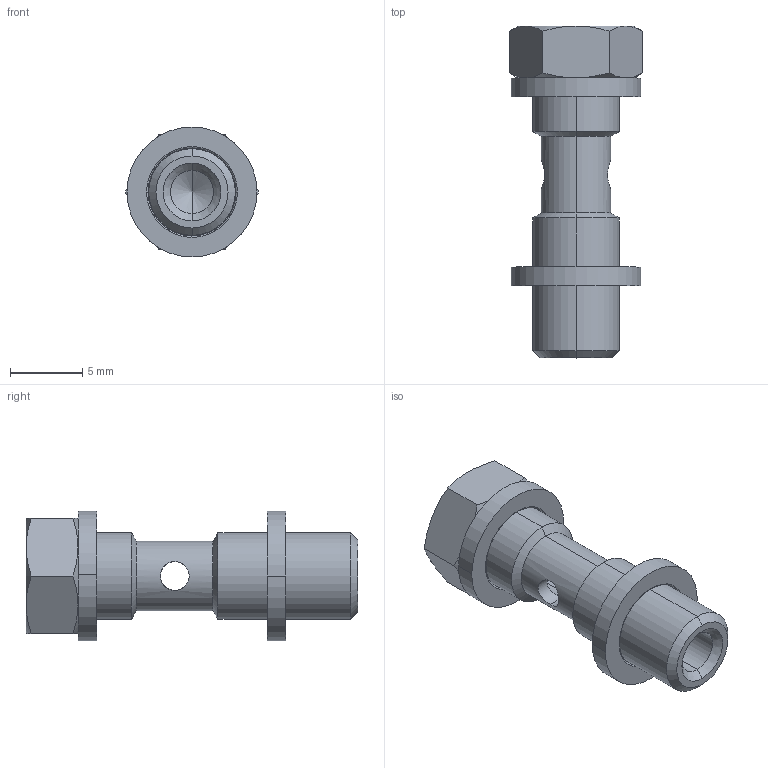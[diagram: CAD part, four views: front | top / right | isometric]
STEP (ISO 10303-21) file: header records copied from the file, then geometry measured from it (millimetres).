
FILE_DESCRIPTION (( 'STEP AP214' ), '1' );
FILE_NAME ('5141000012.step', '2012-10-01T17:05:37', ( '' ), ( '' ), 'SwSTEP 2.0', 'SolidWorks 2012', '' );
FILE_SCHEMA (( 'AUTOMOTIVE_DESIGN' ));
Length unit declared in the file: millimetre
Products named in the file (1): 5141000012
Bounding box: 9.24 x 23 x 9 mm (x, y, z)
Volume: 626.4 mm3; surface area: 1009.5 mm2
Topology: 3 solids, 3 shells, 103 faces, 230 edges, 141 vertices
Faces by surface type: plane 45, cylinder 28, cone 22, torus 8
Entity records: 4211 total; most frequent: CARTESIAN_POINT 713, DIRECTION 500, ORIENTED_EDGE 456, EDGE_CURVE 228, AXIS2_PLACEMENT_3D 200, VERTEX_POINT 141, EDGE_LOOP 121, UNCERTAINTY_MEASURE_WITH_UNIT 108
